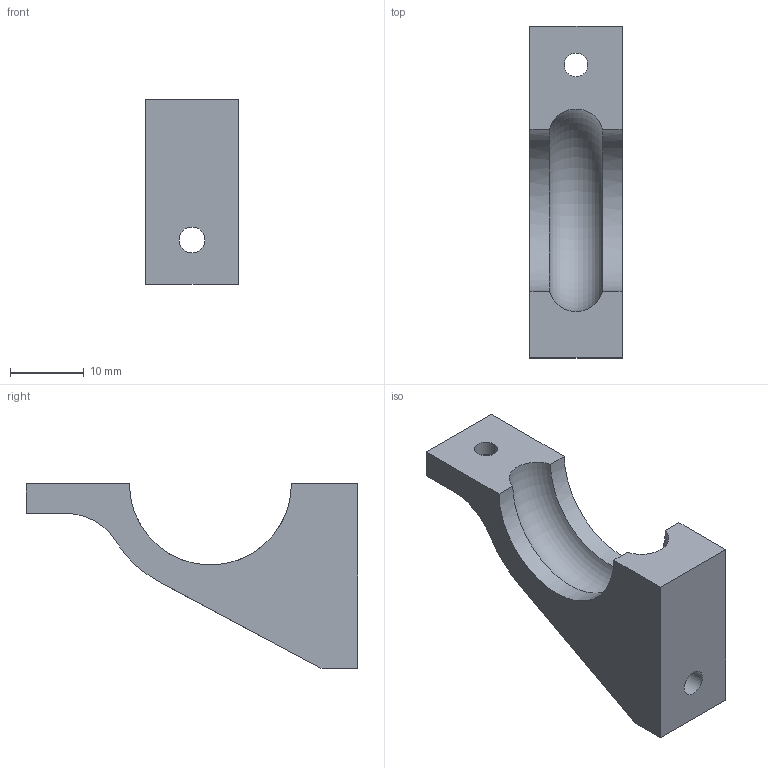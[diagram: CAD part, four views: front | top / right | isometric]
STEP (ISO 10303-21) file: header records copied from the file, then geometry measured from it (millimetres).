
FILE_DESCRIPTION(/* description */ (''),/* implementation_level */ '2;1');
FILE_NAME(/* name */ '/Users/simonhu/OneDrive - FH JOANNEUM/5Semsester/Projekt/3D/turret_final/right_bearing_half.step',/* time_stamp */ '2022-01-27T19:33:17+01:00',/* author */ (''),/* organization */ (''),/* preprocessor_version */ 'ST-DEVELOPER v18.1',/* originating_system */ 'Autodesk Translation Framework v10.13.0.1454',/* authorisation */ '');
FILE_SCHEMA (('AUTOMOTIVE_DESIGN { 1 0 10303 214 3 1 1 }'));
Length unit declared in the file: millimetre
Products named in the file (1): baus_mount
Bounding box: 12.5 x 45 x 25 mm (x, y, z)
Volume: 4809.6 mm3; surface area: 3086.1 mm2
Topology: 1 solids, 1 shells, 20 faces, 51 edges, 34 vertices
Faces by surface type: plane 11, cylinder 8, torus 1
Full cylindrical faces by diameter (mm): 3.2 x1, 3.5 x1, 6 x1, 7 x1
Entity records: 709 total; most frequent: CARTESIAN_POINT 168, DIRECTION 107, ORIENTED_EDGE 102, EDGE_CURVE 51, AXIS2_PLACEMENT_3D 38, VERTEX_POINT 34, LINE 31, VECTOR 31
